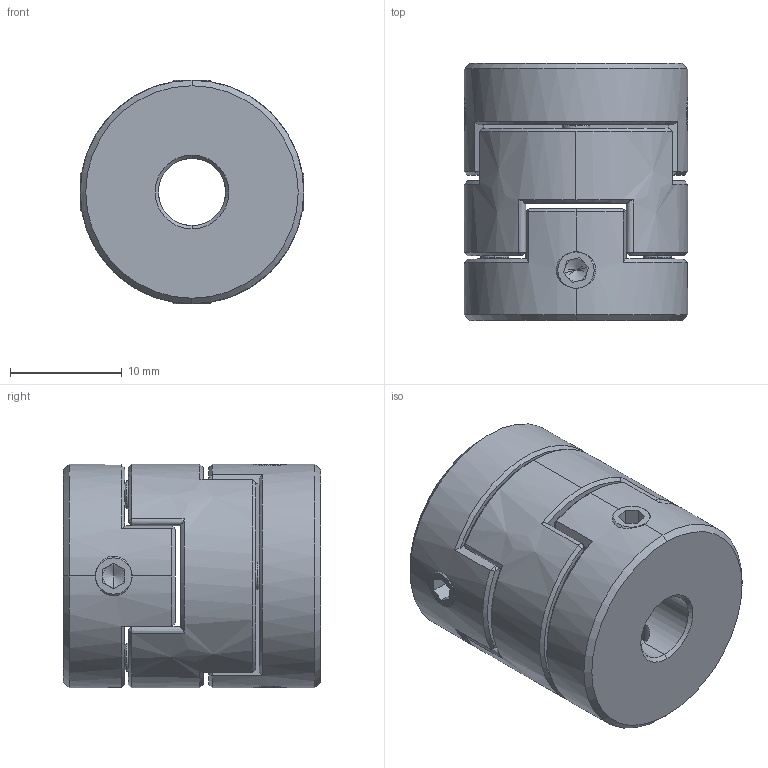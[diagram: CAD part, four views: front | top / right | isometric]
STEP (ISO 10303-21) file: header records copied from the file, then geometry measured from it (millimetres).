
FILE_DESCRIPTION (( 'STEP AP203' ), '1' );
FILE_NAME ('LZ-D-D20L23-6-6.STEP', '2021-10-30T01:43:52', ( '' ), ( '' ), 'SwSTEP 2.0', 'SolidWorks 2018', '' );
FILE_SCHEMA (( 'CONFIG_CONTROL_DESIGN' ));
Length unit declared in the file: millimetre
Products named in the file (1): LZ-D-D20L23-6-6
Bounding box: 20 x 23 x 20 mm (x, y, z)
Volume: 6174.6 mm3; surface area: 4117.9 mm2
Topology: 3 solids, 3 shells, 230 faces, 586 edges, 364 vertices
Faces by surface type: plane 116, cone 54, cylinder 34, bspline 26
Entity records: 9737 total; most frequent: CARTESIAN_POINT 4455, ORIENTED_EDGE 1156, DIRECTION 978, EDGE_CURVE 578, VERTEX_POINT 364, AXIS2_PLACEMENT_3D 357, VECTOR 264, LINE 264
